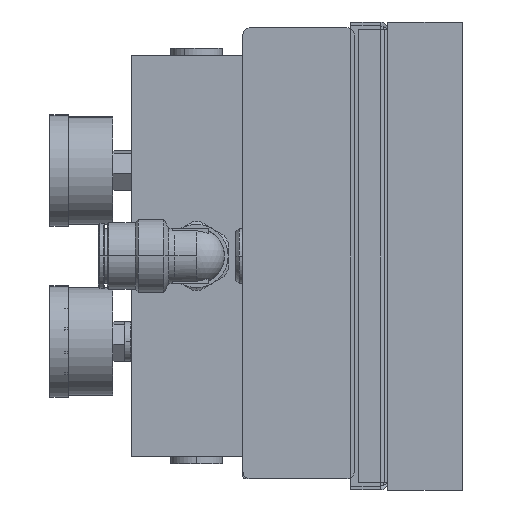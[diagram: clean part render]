
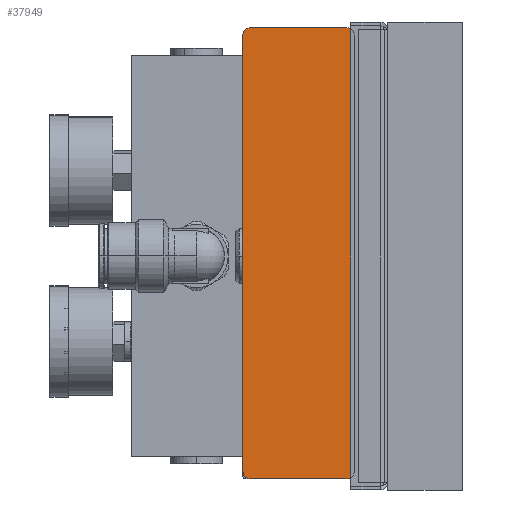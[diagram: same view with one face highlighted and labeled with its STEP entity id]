
A CAD part, left-side view. The second image highlights one B-rep face of the part: STEP entity #37949.
In plain terms, the highlighted planar face has unit normal (-1, 0, 0).
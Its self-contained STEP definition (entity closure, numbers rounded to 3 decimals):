
#566 = AXIS2_PLACEMENT_3D ( 'NONE', #8513, #8514, #8515 ) ;
#5861 = AXIS2_PLACEMENT_3D ( 'NONE', #53619, #53620, #53621 ) ;
#5980 = AXIS2_PLACEMENT_3D ( 'NONE', #45003, #45004, #45005 ) ;
#6187 = AXIS2_PLACEMENT_3D ( 'NONE', #45046, #45047, #45048 ) ;
#6195 = AXIS2_PLACEMENT_3D ( 'NONE', #45040, #45041, #45042 ) ;
#8494 = PLANE ( 'NONE',  #566 ) ;
#8513 = CARTESIAN_POINT ( 'NONE',  ( -506.463, 15., -7.561 ) ) ;
#8514 = DIRECTION ( 'NONE',  ( -1., 0., 0. ) ) ;
#8515 = DIRECTION ( 'NONE',  ( 0., 0., 1. ) ) ;
#9374 = FACE_OUTER_BOUND ( 'NONE', #25589, .T. ) ;
#17886 = VERTEX_POINT ( 'NONE', #41477 ) ;
#18752 = VERTEX_POINT ( 'NONE', #41858 ) ;
#18899 = ORIENTED_EDGE ( 'NONE', *, *, #24199, .F. ) ;
#18974 = ORIENTED_EDGE ( 'NONE', *, *, #24203, .F. ) ;
#19060 = VERTEX_POINT ( 'NONE', #41826 ) ;
#19190 = ORIENTED_EDGE ( 'NONE', *, *, #24551, .T. ) ;
#19349 = ORIENTED_EDGE ( 'NONE', *, *, #24570, .T. ) ;
#19599 = ORIENTED_EDGE ( 'NONE', *, *, #24195, .T. ) ;
#19935 = ORIENTED_EDGE ( 'NONE', *, *, #24568, .T. ) ;
#20268 = VERTEX_POINT ( 'NONE', #41728 ) ;
#20312 = ORIENTED_EDGE ( 'NONE', *, *, #24562, .F. ) ;
#20410 = ORIENTED_EDGE ( 'NONE', *, *, #24555, .F. ) ;
#24195 = EDGE_CURVE ( 'NONE', #34678, #19060, #43084, .T. ) ;
#24199 = EDGE_CURVE ( 'NONE', #34678, #34717, #43097, .T. ) ;
#24203 = EDGE_CURVE ( 'NONE', #17886, #34434, #43107, .T. ) ;
#24551 = EDGE_CURVE ( 'NONE', #34303, #34434, #43453, .T. ) ;
#24555 = EDGE_CURVE ( 'NONE', #34303, #19060, #43460, .T. ) ;
#24562 = EDGE_CURVE ( 'NONE', #20268, #18752, #43476, .T. ) ;
#24568 = EDGE_CURVE ( 'NONE', #17886, #18752, #43489, .T. ) ;
#24570 = EDGE_CURVE ( 'NONE', #20268, #34717, #43491, .T. ) ;
#25589 = EDGE_LOOP ( 'NONE', ( #18899, #19599, #20410, #19190, #18974, #19935, #20312, #19349 ) ) ;
#34303 = VERTEX_POINT ( 'NONE', #45249 ) ;
#34434 = VERTEX_POINT ( 'NONE', #45381 ) ;
#34678 = VERTEX_POINT ( 'NONE', #45615 ) ;
#34717 = VERTEX_POINT ( 'NONE', #45657 ) ;
#37949 = ADVANCED_FACE ( 'NONE', ( #9374 ), #8494, .T. ) ;
#41477 = CARTESIAN_POINT ( 'NONE',  ( -506.463, -15., -9.561 ) ) ;
#41728 = CARTESIAN_POINT ( 'NONE',  ( -506.463, 13., -7.561 ) ) ;
#41826 = CARTESIAN_POINT ( 'NONE',  ( -506.463, 13., -129.061 ) ) ;
#41858 = CARTESIAN_POINT ( 'NONE',  ( -506.463, -13., -7.561 ) ) ;
#43084 = CIRCLE ( 'NONE', #5861, 2. ) ;
#43097 = LINE ( 'NONE', #53626, #43103 ) ;
#43103 = VECTOR ( 'NONE', #53627, 1000. ) ;
#43107 = LINE ( 'NONE', #53632, #43109 ) ;
#43109 = VECTOR ( 'NONE', #53628, 1000. ) ;
#43453 = CIRCLE ( 'NONE', #5980, 2. ) ;
#43460 = LINE ( 'NONE', #45013, #43463 ) ;
#43463 = VECTOR ( 'NONE', #45014, 1000. ) ;
#43476 = LINE ( 'NONE', #45006, #43480 ) ;
#43480 = VECTOR ( 'NONE', #45007, 1000. ) ;
#43489 = CIRCLE ( 'NONE', #6195, 2. ) ;
#43491 = CIRCLE ( 'NONE', #6187, 2. ) ;
#45003 = CARTESIAN_POINT ( 'NONE',  ( -506.463, -13., -127.061 ) ) ;
#45004 = DIRECTION ( 'NONE',  ( -1., 0., 0. ) ) ;
#45005 = DIRECTION ( 'NONE',  ( 0., 0., 1. ) ) ;
#45006 = CARTESIAN_POINT ( 'NONE',  ( -506.463, -15., -7.561 ) ) ;
#45007 = DIRECTION ( 'NONE',  ( 0., -1., 0. ) ) ;
#45013 = CARTESIAN_POINT ( 'NONE',  ( -506.463, -15., -129.061 ) ) ;
#45014 = DIRECTION ( 'NONE',  ( 0., 1., 0. ) ) ;
#45040 = CARTESIAN_POINT ( 'NONE',  ( -506.463, -13., -9.561 ) ) ;
#45041 = DIRECTION ( 'NONE',  ( -1., 0., 0. ) ) ;
#45042 = DIRECTION ( 'NONE',  ( 0., 0., 1. ) ) ;
#45046 = CARTESIAN_POINT ( 'NONE',  ( -506.463, 13., -9.561 ) ) ;
#45047 = DIRECTION ( 'NONE',  ( -1., 0., 0. ) ) ;
#45048 = DIRECTION ( 'NONE',  ( 0., 0., 1. ) ) ;
#45249 = CARTESIAN_POINT ( 'NONE',  ( -506.463, -13., -129.061 ) ) ;
#45381 = CARTESIAN_POINT ( 'NONE',  ( -506.463, -15., -127.061 ) ) ;
#45615 = CARTESIAN_POINT ( 'NONE',  ( -506.463, 15., -127.061 ) ) ;
#45657 = CARTESIAN_POINT ( 'NONE',  ( -506.463, 15., -9.561 ) ) ;
#53619 = CARTESIAN_POINT ( 'NONE',  ( -506.463, 13., -127.061 ) ) ;
#53620 = DIRECTION ( 'NONE',  ( -1., 0., 0. ) ) ;
#53621 = DIRECTION ( 'NONE',  ( 0., 0., 1. ) ) ;
#53626 = CARTESIAN_POINT ( 'NONE',  ( -506.463, 15., -7.561 ) ) ;
#53627 = DIRECTION ( 'NONE',  ( 0., 0., 1. ) ) ;
#53628 = DIRECTION ( 'NONE',  ( 0., 0., -1. ) ) ;
#53632 = CARTESIAN_POINT ( 'NONE',  ( -506.463, -15., -7.561 ) ) ;
